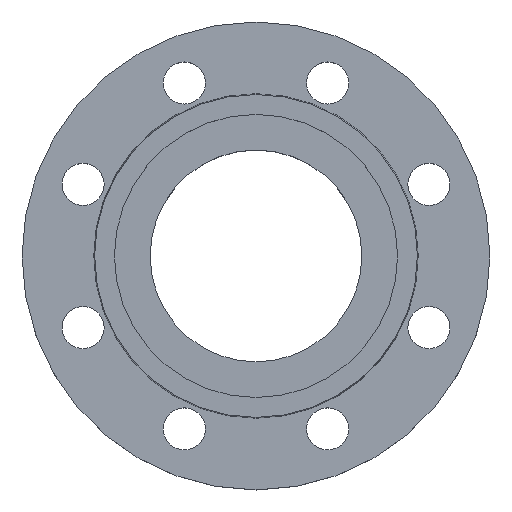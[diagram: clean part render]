
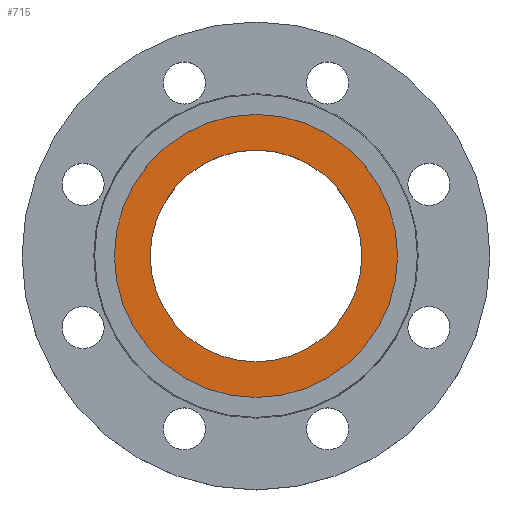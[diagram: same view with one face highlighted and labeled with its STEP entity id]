
A CAD part, top view. The second image highlights one B-rep face of the part: STEP entity #715.
In plain terms, the highlighted planar face has unit normal (0, 0, 1).
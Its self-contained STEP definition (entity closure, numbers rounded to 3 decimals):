
#15 = EDGE_CURVE ( 'NONE', #443, #935, #504, .T. ) ;
#36 = AXIS2_PLACEMENT_3D ( 'NONE', #548, #549, #550 ) ;
#53 = EDGE_CURVE ( 'NONE', #722, #110, #650, .T. ) ;
#68 = CIRCLE ( 'NONE', #658, 45.25 ) ;
#78 = CIRCLE ( 'NONE', #828, 60.5 ) ;
#88 = EDGE_LOOP ( 'NONE', ( #892, #895 ) ) ;
#110 = VERTEX_POINT ( 'NONE', #593 ) ;
#125 = CARTESIAN_POINT ( 'NONE',  ( -60.5, 0., -4. ) ) ;
#139 = AXIS2_PLACEMENT_3D ( 'NONE', #522, #523, #524 ) ;
#172 = DIRECTION ( 'NONE',  ( -1., 0., 0. ) ) ;
#173 = DIRECTION ( 'NONE',  ( 0., 0., -1. ) ) ;
#174 = CARTESIAN_POINT ( 'NONE',  ( 0., 0., -4. ) ) ;
#212 = CARTESIAN_POINT ( 'NONE',  ( 45.25, 0., -4. ) ) ;
#226 = DIRECTION ( 'NONE',  ( 1., 0., 0. ) ) ;
#227 = DIRECTION ( 'NONE',  ( 0., 0., 1. ) ) ;
#228 = CARTESIAN_POINT ( 'NONE',  ( 60.5, 0., -4. ) ) ;
#229 = PLANE ( 'NONE',  #678 ) ;
#230 = FACE_OUTER_BOUND ( 'NONE', #88, .T. ) ;
#231 = FACE_BOUND ( 'NONE', #760, .T. ) ;
#365 = EDGE_CURVE ( 'NONE', #110, #722, #68, .T. ) ;
#433 = CARTESIAN_POINT ( 'NONE',  ( 0., 0., -4. ) ) ;
#440 = DIRECTION ( 'NONE',  ( 1., 0., 0. ) ) ;
#443 = VERTEX_POINT ( 'NONE', #686 ) ;
#444 = DIRECTION ( 'NONE',  ( 0., 0., -1. ) ) ;
#504 = CIRCLE ( 'NONE', #139, 60.5 ) ;
#522 = CARTESIAN_POINT ( 'NONE',  ( 0., 0., -4. ) ) ;
#523 = DIRECTION ( 'NONE',  ( 0., 0., -1. ) ) ;
#524 = DIRECTION ( 'NONE',  ( -1., 0., 0. ) ) ;
#548 = CARTESIAN_POINT ( 'NONE',  ( 0., 0., -4. ) ) ;
#549 = DIRECTION ( 'NONE',  ( 0., 0., -1. ) ) ;
#550 = DIRECTION ( 'NONE',  ( 1., 0., 0. ) ) ;
#593 = CARTESIAN_POINT ( 'NONE',  ( -45.25, 0., -4. ) ) ;
#650 = CIRCLE ( 'NONE', #36, 45.25 ) ;
#658 = AXIS2_PLACEMENT_3D ( 'NONE', #433, #444, #440 ) ;
#678 = AXIS2_PLACEMENT_3D ( 'NONE', #228, #227, #226 ) ;
#686 = CARTESIAN_POINT ( 'NONE',  ( 60.5, 0., -4. ) ) ;
#715 = ADVANCED_FACE ( 'NONE', ( #231, #230 ), #229, .T. ) ;
#722 = VERTEX_POINT ( 'NONE', #212 ) ;
#760 = EDGE_LOOP ( 'NONE', ( #890, #891 ) ) ;
#764 = EDGE_CURVE ( 'NONE', #935, #443, #78, .T. ) ;
#828 = AXIS2_PLACEMENT_3D ( 'NONE', #174, #173, #172 ) ;
#890 = ORIENTED_EDGE ( 'NONE', *, *, #365, .T. ) ;
#891 = ORIENTED_EDGE ( 'NONE', *, *, #53, .T. ) ;
#892 = ORIENTED_EDGE ( 'NONE', *, *, #764, .F. ) ;
#895 = ORIENTED_EDGE ( 'NONE', *, *, #15, .F. ) ;
#935 = VERTEX_POINT ( 'NONE', #125 ) ;
